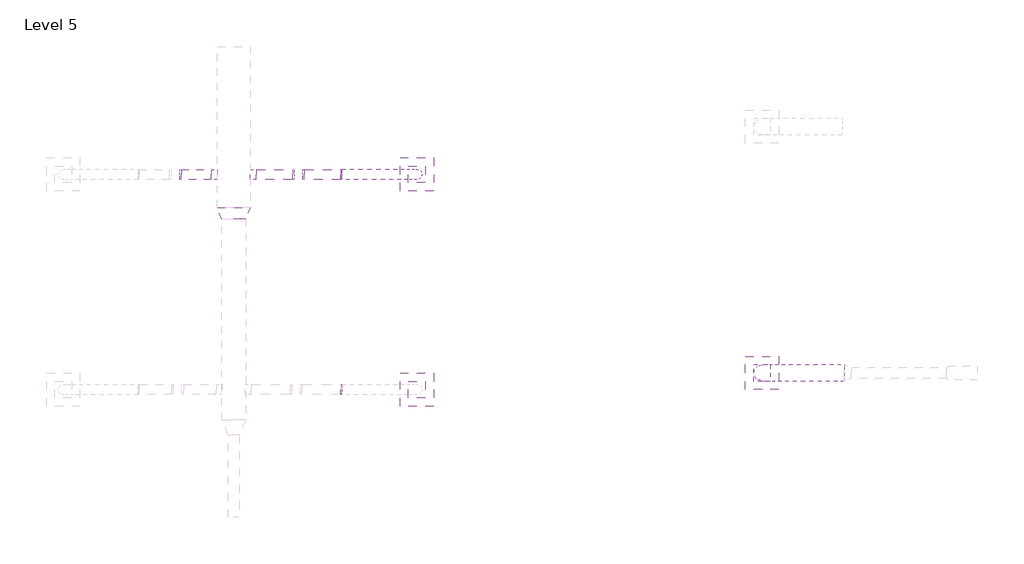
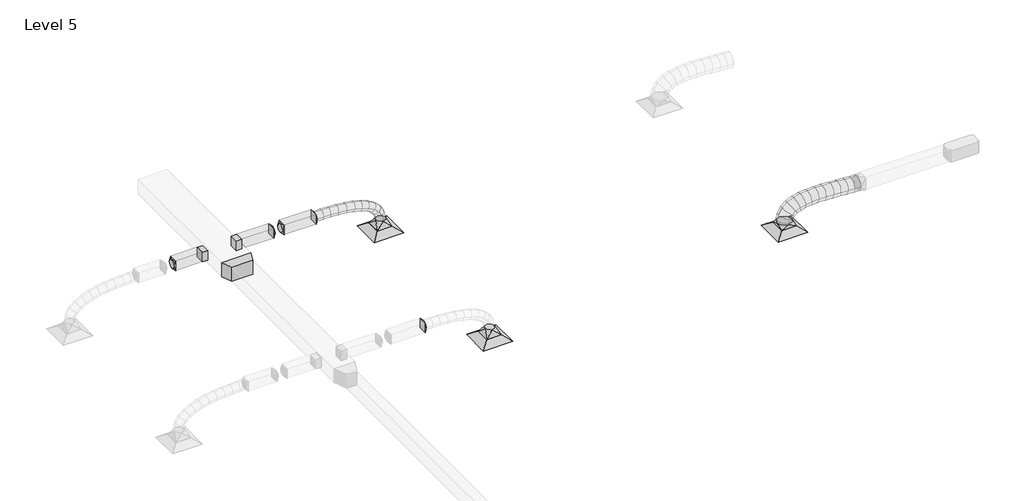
# One storey, part 3 of 7: 11 duct fittings, 5 duct segments, 3 air terminals.
"""IFC4 building model written with IfcOpenShell, lengths in millimetres."""

from ifc_helpers import new_model, si_unit, frame, origin, place, context, project, spatial, polyline, circle_curve, ellipse_curve, outline, extrude, transform, mapped, element, save
from ifc_brep_helpers import plane_surface, cylinder_surface, advanced_brep
from components import extract_grille_600_x_600_face_300_x_300_connection_2ef68f4f, supply_diffuser_24_x_24_face_16_x_16_connection_3cd54949, rectangular_takeoff_standard_32a156ed, rectangular_transition_angle_45_degree_a15e2a90, rectangular_to_round_transition_angle_45_degree_6939472c, rectangular_to_round_transition_angle_45_degree_460bb45a, rectangular_to_round_transition_angle_45_degree_ccfbbdd0, rectangular_to_round_transition_angle_45_degree_641efff0

model = new_model("IFC4")

# Units and contexts
model_context = context("Model", 3, world=origin())
ifc_project = project(units=[si_unit("LENGTHUNIT", "METRE", prefix="MILLI")], contexts=[model_context])

# Site, building, storey
site = spatial("IfcSite", under=ifc_project)
building = spatial("IfcBuilding", under=site)
storey = spatial("IfcBuildingStorey", under=building, Name="Level 5", Elevation=19507.2)

# Air terminals
placement = place(None, origin())
extract_grille_600_x_600_face_300_x_300_connection_shape = extract_grille_600_x_600_face_300_x_300_connection_2ef68f4f(model_context)
element("IfcAirTerminal", 1, ObjectType="Extract Grille : 600 x 600 Face 300 x 300 Connection", at=placement, inside=storey, context=model_context, shape_type="MappedRepresentation", body=[
    mapped(extract_grille_600_x_600_face_300_x_300_connection_shape, transform((-7599.3643438, 7900.8314492, 21507.2), x_axis=(-1.0, 0.0, 0.0), y_axis=(0.0, -1.0, 0.0), z_axis=(0.0, 0.0, 1.0))),
])
element("IfcAirTerminal", 2, ObjectType="Extract Grille : 600 x 600 Face 300 x 300 Connection", at=placement, inside=storey, context=model_context, shape_type="MappedRepresentation", body=[
    mapped(extract_grille_600_x_600_face_300_x_300_connection_shape, transform((-7599.3643438, 4033.0001252, 21507.2), x_axis=(-1.0, 0.0, 0.0), y_axis=(0.0, -1.0, 0.0), z_axis=(0.0, 0.0, 1.0))),
])
supply_diffuser_24_x_24_face_16_x_16_connection_shape = supply_diffuser_24_x_24_face_16_x_16_connection_3cd54949(model_context)
element("IfcAirTerminal", 3, ObjectType="Supply Diffuser : 24 x 24 Face 16 x 16 Connection", at=placement, inside=storey, context=model_context, shape_type="MappedRepresentation", body=[
    mapped(supply_diffuser_24_x_24_face_16_x_16_connection_shape, transform((-1396.0430817, 4332.0573383, 21507.2), x_axis=(-1.0, 0.0, 0.0), y_axis=(0.0, -1.0, 0.0), z_axis=(0.0, 0.0, 1.0))),
])

# Duct fittings
rectangular_takeoff_standard_shape = rectangular_takeoff_standard_32a156ed(model_context)
element("IfcDuctFitting", 4, ObjectType="Rectangular Takeoff : Standard", at=placement, inside=storey, context=model_context, shape_type="MappedRepresentation", body=[
    mapped(rectangular_takeoff_standard_shape, transform((-10588.399049, 7900.8314492, 22250.4), x_axis=(1.0, 0.0, 0.0), y_axis=(0.0, -1.0, 0.0), z_axis=(0.0, 0.0, -1.0))),
])
element("IfcDuctFitting", 5, ObjectType="Rectangular Takeoff : Standard", at=placement, inside=storey, context=model_context, shape_type="MappedRepresentation", body=[
    mapped(rectangular_takeoff_standard_shape, transform((-11188.399049, 7900.8314492, 22250.4), x_axis=(-1.0, 0.0, 0.0), y_axis=(0.0, -1.0, 0.0), z_axis=(0.0, 0.0, 1.0))),
])
rectangular_transition_angle_45_degree_shape = rectangular_transition_angle_45_degree_a15e2a90(model_context)
element("IfcDuctFitting", 6, ObjectType="Rectangular Transition - Angle : 45 Degree", at=placement, inside=storey, context=model_context, shape_type="MappedRepresentation", body=[
    mapped(rectangular_transition_angle_45_degree_shape, transform((-10888.399049, 7097.6456511, 22250.4), x_axis=(0.0, 1.0, 0.0), y_axis=(-1.0, 0.0, 0.0), z_axis=(0.0, 0.0, 1.0))),
])
rectangular_to_round_transition_angle_45_degree_shape = rectangular_to_round_transition_angle_45_degree_6939472c(model_context)
element("IfcDuctFitting", 7, ObjectType="Rectangular to Round Transition - Angle : 45 Degree", at=placement, inside=storey, context=model_context, shape_type="MappedRepresentation", body=[
    mapped(rectangular_to_round_transition_angle_45_degree_shape, transform((-7599.3643438, 7900.8314492, 21607.2), x_axis=(0.0, 0.0, 1.0), y_axis=(-1.0, 0.0, 0.0), z_axis=(0.0, -1.0, 0.0))),
])
element("IfcDuctFitting", 8, ObjectType="Rectangular to Round Transition - Angle : 45 Degree", at=placement, inside=storey, context=model_context, shape_type="MappedRepresentation", body=[
    mapped(rectangular_to_round_transition_angle_45_degree_shape, transform((-7599.3643438, 4033.0001252, 21607.2), x_axis=(0.0, 0.0, 1.0), y_axis=(-1.0, 0.0, 0.0), z_axis=(0.0, -1.0, 0.0))),
])
rectangular_to_round_transition_angle_45_degree_2_shape = rectangular_to_round_transition_angle_45_degree_460bb45a(model_context)
element("IfcDuctFitting", 9, ObjectType="Rectangular to Round Transition - Angle : 45 Degree", at=placement, inside=storey, context=model_context, shape_type="MappedRepresentation", body=[
    mapped(rectangular_to_round_transition_angle_45_degree_2_shape, transform((-8963.51205, 7900.8314492, 22250.4), x_axis=(1.0, 0.0, 0.0), y_axis=(0.0, 1.0, 0.0), z_axis=(0.0, 0.0, 1.0))),
])
element("IfcDuctFitting", 10, ObjectType="Rectangular to Round Transition - Angle : 45 Degree", at=placement, inside=storey, context=model_context, shape_type="MappedRepresentation", body=[
    mapped(rectangular_to_round_transition_angle_45_degree_2_shape, transform((-8963.51205, 4033.0001252, 22250.4), x_axis=(1.0, 0.0, 0.0), y_axis=(0.0, 1.0, 0.0), z_axis=(0.0, 0.0, 1.0))),
])
rectangular_to_round_transition_angle_45_degree_3_shape = rectangular_to_round_transition_angle_45_degree_ccfbbdd0(model_context)
element("IfcDuctFitting", 11, ObjectType="Rectangular to Round Transition - Angle : 45 Degree", at=placement, inside=storey, context=model_context, shape_type="MappedRepresentation", body=[
    mapped(rectangular_to_round_transition_angle_45_degree_3_shape, transform((-11831.778829, 7900.8314492, 22250.4), x_axis=(-1.0, 0.0, 0.0), y_axis=(0.0, -1.0, 0.0), z_axis=(0.0, 0.0, 1.0))),
])
element("IfcDuctFitting", 12, ObjectType="Rectangular to Round Transition - Angle : 45 Degree", at=placement, inside=storey, context=model_context, shape_type="MappedRepresentation", body=[
    mapped(rectangular_to_round_transition_angle_45_degree_3_shape, transform((-9832.0160617, 7900.8314492, 22250.4), x_axis=(1.0, 0.0, 0.0), y_axis=(0.0, 1.0, 0.0), z_axis=(0.0, 0.0, 1.0))),
])
element("IfcDuctFitting", 13, ObjectType="Rectangular to Round Transition - Angle : 45 Degree", at=placement, inside=storey, context=model_context, shape_type="MappedRepresentation", body=[
    mapped(rectangular_to_round_transition_angle_45_degree_3_shape, transform((-9618.2950373, 7900.8314492, 22250.4), x_axis=(-1.0, 0.0, 0.0), y_axis=(0.0, -1.0, 0.0), z_axis=(0.0, 0.0, 1.0))),
])
rectangular_to_round_transition_angle_45_degree_4_shape = rectangular_to_round_transition_angle_45_degree_641efff0(model_context)
element("IfcDuctFitting", 14, ObjectType="Rectangular to Round Transition - Angle : 45 Degree", at=placement, inside=storey, context=model_context, shape_type="MappedRepresentation", body=[
    mapped(rectangular_to_round_transition_angle_45_degree_4_shape, transform((-1396.0430817, 4332.0573383, 21608.8), x_axis=(0.0, 0.0, 1.0), y_axis=(-1.0, 0.0, 0.0), z_axis=(0.0, -1.0, 0.0))),
])

# Duct segments
element("IfcDuctSegment", 15, ObjectType="Flex - Round", at=placement, inside=storey, context=model_context, shape_type="AdvancedBrep", body=[
    advanced_brep(
    [(-7504.5376771, 7900.8314492, 21740.4002096), (-7599.3643438, 7806.0047825, 21740.4002096), (-7694.1910105, 7900.8314492, 21740.4002096), (-7599.3643438, 7995.6581158, 21740.4002096), (-7504.5376771, 7900.8314492, 21765.6702615), (-7599.3643438, 7806.0047825, 21756.3980144), (-7694.1910105, 7900.8314492, 21747.1257674), (-7599.3643438, 7995.6581158, 21756.3980144), (-7529.9698172, 7900.8314492, 21894.4732915), (-7619.9286293, 7806.0047825, 21860.5474205), (-7709.8874414, 7900.8314492, 21826.6215495), (-7619.9286293, 7995.6581158, 21860.5474205), (-7603.270408, 7900.8314492, 22020.6379256), (-7677.8512937, 7806.0047825, 21960.2436396), (-7752.4321794, 7900.8314492, 21899.8493536), (-7677.8512937, 7995.6581158, 21960.2436396), (-7711.8530944, 7900.8314492, 22118.9440371), (-7767.4770488, 7806.0047825, 22041.3869579), (-7823.1010033, 7900.8314492, 21963.8298786), (-7767.4770488, 7995.6581158, 22041.3869579), (-7843.5394232, 7900.8314492, 22192.3597348), (-7883.1506065, 7806.0047825, 22105.8754664), (-7922.7617899, 7900.8314492, 22019.391198), (-7883.1506065, 7995.6581158, 22105.8754664), (-7991.5945689, 7900.8314492, 22246.4734993), (-8019.2166786, 7806.0047825, 22155.6072562), (-8046.8387884, 7900.8314492, 22064.7410131), (-8019.2166786, 7995.6581158, 22155.6072562), (-8151.1437669, 7900.8314492, 22285.4851358), (-8170.019977, 7806.0047825, 22192.4804184), (-8188.8961871, 7900.8314492, 22099.475701), (-8170.019977, 7995.6581158, 22192.4804184), (-8317.4432998, 7900.8314492, 22312.4373273), (-8329.9052134, 7806.0047825, 22218.3930438), (-8342.3671271, 7900.8314492, 22124.3487604), (-8329.9052134, 7995.6581158, 22218.3930438), (-8485.5016071, 7900.8314492, 22329.777233), (-8493.2170998, 7806.0047825, 22235.2432237), (-8500.9325925, 7900.8314492, 22140.7092145), (-8493.2170998, 7995.6581158, 22235.2432237), (-8650.086298, 7900.8314492, 22339.6735976), (-8654.3003479, 7806.0047825, 22244.929049), (-8658.5143978, 7900.8314492, 22150.1845004), (-8654.3003479, 7995.6581158, 22244.929049), (-8805.7753149, 7900.8314492, 22344.1649832), (-8807.4996696, 7806.0047825, 22249.3486108), (-8809.2240244, 7900.8314492, 22154.5322383), (-8807.4996696, 7995.6581158, 22249.3486108), (-8946.4459229, 7900.8314492, 22345.2239797), (-8947.1597768, 7806.0047825, 22250.4), (-8947.8736307, 7900.8314492, 22155.5760203), (-8947.1597768, 7995.6581158, 22250.4)],
    [
        (0, 1, circle_curve(frame((-7599.3643438, 7900.8314492, 21740.4002096), z_axis=(0.0, 0.0, -1.0), x_axis=(1.0, 0.0, 0.0)), 94.8266667)),
        (1, 2, circle_curve(frame((-7599.3643438, 7900.8314492, 21740.4002096), z_axis=(0.0, 0.0, -1.0), x_axis=(1.0, 0.0, 0.0)), 94.8266667)),
        (2, 3, circle_curve(frame((-7599.3643438, 7900.8314492, 21740.4002096), z_axis=(0.0, 0.0, -1.0), x_axis=(1.0, 0.0, 0.0)), 94.8266667)),
        (3, 0, circle_curve(frame((-7599.3643438, 7900.8314492, 21740.4002096), z_axis=(0.0, 0.0, -1.0), x_axis=(1.0, 0.0, 0.0)), 94.8266667)),
        (0, 4),
        (4, 5, ellipse_curve(frame((-7599.3643438, 7900.8314492, 21756.3980144), z_axis=(0.09731688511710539, 0.0, -0.9952534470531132), x_axis=(-0.9952534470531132, 0.0, -0.09731688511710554)), 95.2789131, 94.8266667)),
        (5, 1),
        (5, 6, ellipse_curve(frame((-7599.3643438, 7900.8314492, 21756.3980144), z_axis=(0.09731688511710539, 0.0, -0.9952534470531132), x_axis=(-0.9952534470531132, 0.0, -0.09731688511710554)), 95.2789131, 94.8266667)),
        (6, 2),
        (6, 7, ellipse_curve(frame((-7599.3643438, 7900.8314492, 21756.3980144), z_axis=(0.09731688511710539, 0.0, -0.9952534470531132), x_axis=(-0.9952534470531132, 0.0, -0.09731688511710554)), 95.2789131, 94.8266667)),
        (7, 3),
        (7, 4, ellipse_curve(frame((-7599.3643438, 7900.8314492, 21756.3980144), z_axis=(0.09731688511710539, 0.0, -0.9952534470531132), x_axis=(-0.9952534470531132, 0.0, -0.09731688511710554)), 95.2789131, 94.8266667)),
        (4, 8),
        (8, 9, ellipse_curve(frame((-7619.9286293, 7900.8314492, 21860.5474205), z_axis=(0.3528674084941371, 0.0, -0.9356733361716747), x_axis=(-0.9356733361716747, 0.0, -0.3528674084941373)), 96.143396, 94.8266667)),
        (9, 5),
        (9, 10, ellipse_curve(frame((-7619.9286293, 7900.8314492, 21860.5474205), z_axis=(0.3528674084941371, 0.0, -0.9356733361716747), x_axis=(-0.9356733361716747, 0.0, -0.3528674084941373)), 96.143396, 94.8266667)),
        (10, 6),
        (10, 11, ellipse_curve(frame((-7619.9286293, 7900.8314492, 21860.5474205), z_axis=(0.3528674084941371, 0.0, -0.9356733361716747), x_axis=(-0.9356733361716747, 0.0, -0.3528674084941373)), 96.143396, 94.8266667)),
        (11, 7),
        (11, 8, ellipse_curve(frame((-7619.9286293, 7900.8314492, 21860.5474205), z_axis=(0.3528674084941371, 0.0, -0.9356733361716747), x_axis=(-0.9356733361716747, 0.0, -0.3528674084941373)), 96.143396, 94.8266667)),
        (8, 12),
        (12, 13, ellipse_curve(frame((-7677.8512937, 7900.8314492, 21960.2436396), z_axis=(0.6293196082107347, 0.0, -0.777146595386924), x_axis=(-0.7771465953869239, 0.0, -0.6293196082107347)), 95.9675898, 94.8266667)),
        (13, 9),
        (13, 14, ellipse_curve(frame((-7677.8512937, 7900.8314492, 21960.2436396), z_axis=(0.6293196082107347, 0.0, -0.777146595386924), x_axis=(-0.7771465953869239, 0.0, -0.6293196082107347)), 95.9675898, 94.8266667)),
        (14, 10),
        (14, 15, ellipse_curve(frame((-7677.8512937, 7900.8314492, 21960.2436396), z_axis=(0.6293196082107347, 0.0, -0.777146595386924), x_axis=(-0.7771465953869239, 0.0, -0.6293196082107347)), 95.9675898, 94.8266667)),
        (15, 11),
        (15, 12, ellipse_curve(frame((-7677.8512937, 7900.8314492, 21960.2436396), z_axis=(0.6293196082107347, 0.0, -0.777146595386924), x_axis=(-0.7771465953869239, 0.0, -0.6293196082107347)), 95.9675898, 94.8266667)),
        (12, 16),
        (16, 17, ellipse_curve(frame((-7767.4770488, 7900.8314492, 22041.3869579), z_axis=(0.8126117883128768, 0.0, -0.5828053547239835), x_axis=(-0.5828053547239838, 0.0, -0.8126117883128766)), 95.4417354, 94.8266667)),
        (17, 13),
        (17, 18, ellipse_curve(frame((-7767.4770488, 7900.8314492, 22041.3869579), z_axis=(0.8126117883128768, 0.0, -0.5828053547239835), x_axis=(-0.5828053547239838, 0.0, -0.8126117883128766)), 95.4417354, 94.8266667)),
        (18, 14),
        (18, 19, ellipse_curve(frame((-7767.4770488, 7900.8314492, 22041.3869579), z_axis=(0.8126117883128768, 0.0, -0.5828053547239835), x_axis=(-0.5828053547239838, 0.0, -0.8126117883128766)), 95.4417354, 94.8266667)),
        (19, 15),
        (19, 16, ellipse_curve(frame((-7767.4770488, 7900.8314492, 22041.3869579), z_axis=(0.8126117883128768, 0.0, -0.5828053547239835), x_axis=(-0.5828053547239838, 0.0, -0.8126117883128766)), 95.4417354, 94.8266667)),
        (16, 20),
        (20, 21, ellipse_curve(frame((-7883.1506065, 7900.8314492, 22105.8754664), z_axis=(0.9091740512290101, 0.0, -0.4164163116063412), x_axis=(-0.41641631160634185, 0.0, -0.9091740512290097)), 95.1239955, 94.8266667)),
        (21, 17),
        (21, 22, ellipse_curve(frame((-7883.1506065, 7900.8314492, 22105.8754664), z_axis=(0.9091740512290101, 0.0, -0.4164163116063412), x_axis=(-0.41641631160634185, 0.0, -0.9091740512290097)), 95.1239955, 94.8266667)),
        (22, 18),
        (22, 23, ellipse_curve(frame((-7883.1506065, 7900.8314492, 22105.8754664), z_axis=(0.9091740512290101, 0.0, -0.4164163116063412), x_axis=(-0.41641631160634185, 0.0, -0.9091740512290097)), 95.1239955, 94.8266667)),
        (23, 19),
        (23, 20, ellipse_curve(frame((-7883.1506065, 7900.8314492, 22105.8754664), z_axis=(0.9091740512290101, 0.0, -0.4164163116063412), x_axis=(-0.41641631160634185, 0.0, -0.9091740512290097)), 95.1239955, 94.8266667)),
        (20, 24),
        (24, 25, ellipse_curve(frame((-8019.2166786, 7900.8314492, 22155.6072562), z_axis=(0.9567701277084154, 0.0, -0.29084518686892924), x_axis=(-0.2908451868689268, 0.0, -0.9567701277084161)), 94.9718647, 94.8266667)),
        (25, 21),
        (25, 26, ellipse_curve(frame((-8019.2166786, 7900.8314492, 22155.6072562), z_axis=(0.9567701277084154, 0.0, -0.29084518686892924), x_axis=(-0.2908451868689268, 0.0, -0.9567701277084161)), 94.9718647, 94.8266667)),
        (26, 22),
        (26, 27, ellipse_curve(frame((-8019.2166786, 7900.8314492, 22155.6072562), z_axis=(0.9567701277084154, 0.0, -0.29084518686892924), x_axis=(-0.2908451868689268, 0.0, -0.9567701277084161)), 94.9718647, 94.8266667)),
        (27, 23),
        (27, 24, ellipse_curve(frame((-8019.2166786, 7900.8314492, 22155.6072562), z_axis=(0.9567701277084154, 0.0, -0.29084518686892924), x_axis=(-0.2908451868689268, 0.0, -0.9567701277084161)), 94.9718647, 94.8266667)),
        (24, 28),
        (28, 29, ellipse_curve(frame((-8170.019977, 7900.8314492, 22192.4804184), z_axis=(0.9800189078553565, 0.0, -0.1989043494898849), x_axis=(-0.19890434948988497, 0.0, -0.9800189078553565)), 94.9009419, 94.8266667)),
        (29, 25),
        (29, 30, ellipse_curve(frame((-8170.019977, 7900.8314492, 22192.4804184), z_axis=(0.9800189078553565, 0.0, -0.1989043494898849), x_axis=(-0.19890434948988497, 0.0, -0.9800189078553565)), 94.9009419, 94.8266667)),
        (30, 26),
        (30, 31, ellipse_curve(frame((-8170.019977, 7900.8314492, 22192.4804184), z_axis=(0.9800189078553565, 0.0, -0.1989043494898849), x_axis=(-0.19890434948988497, 0.0, -0.9800189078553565)), 94.9009419, 94.8266667)),
        (31, 27),
        (31, 28, ellipse_curve(frame((-8170.019977, 7900.8314492, 22192.4804184), z_axis=(0.9800189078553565, 0.0, -0.1989043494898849), x_axis=(-0.19890434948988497, 0.0, -0.9800189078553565)), 94.9009419, 94.8266667)),
        (28, 32),
        (32, 33, ellipse_curve(frame((-8329.9052134, 7900.8314492, 22218.3930438), z_axis=(0.9913343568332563, 0.0, -0.13136282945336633), x_axis=(-0.13136282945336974, 0.0, -0.9913343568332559)), 94.8663615, 94.8266667)),
        (33, 29),
        (33, 34, ellipse_curve(frame((-8329.9052134, 7900.8314492, 22218.3930438), z_axis=(0.9913343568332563, 0.0, -0.13136282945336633), x_axis=(-0.13136282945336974, 0.0, -0.9913343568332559)), 94.8663615, 94.8266667)),
        (34, 30),
        (34, 35, ellipse_curve(frame((-8329.9052134, 7900.8314492, 22218.3930438), z_axis=(0.9913343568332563, 0.0, -0.13136282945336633), x_axis=(-0.13136282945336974, 0.0, -0.9913343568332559)), 94.8663615, 94.8266667)),
        (35, 31),
        (35, 32, ellipse_curve(frame((-8329.9052134, 7900.8314492, 22218.3930438), z_axis=(0.9913343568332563, 0.0, -0.13136282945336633), x_axis=(-0.13136282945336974, 0.0, -0.9913343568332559)), 94.8663615, 94.8266667)),
        (32, 36),
        (36, 37, ellipse_curve(frame((-8493.2170998, 7900.8314492, 22235.2432237), z_axis=(0.9966859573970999, 0.0, -0.08134557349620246), x_axis=(-0.08134557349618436, 0.0, -0.9966859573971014)), 94.8483407, 94.8266667)),
        (37, 33),
        (37, 38, ellipse_curve(frame((-8493.2170998, 7900.8314492, 22235.2432237), z_axis=(0.9966859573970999, 0.0, -0.08134557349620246), x_axis=(-0.08134557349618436, 0.0, -0.9966859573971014)), 94.8483407, 94.8266667)),
        (38, 34),
        (38, 39, ellipse_curve(frame((-8493.2170998, 7900.8314492, 22235.2432237), z_axis=(0.9966859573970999, 0.0, -0.08134557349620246), x_axis=(-0.08134557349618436, 0.0, -0.9966859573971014)), 94.8483407, 94.8266667)),
        (39, 35),
        (39, 36, ellipse_curve(frame((-8493.2170998, 7900.8314492, 22235.2432237), z_axis=(0.9966859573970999, 0.0, -0.08134557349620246), x_axis=(-0.08134557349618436, 0.0, -0.9966859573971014)), 94.8483407, 94.8266667)),
        (36, 40),
        (40, 41, ellipse_curve(frame((-8654.3003479, 7900.8314492, 22244.929049), z_axis=(0.9990123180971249, 0.0, -0.04443408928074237), x_axis=(-0.0444340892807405, 0.0, -0.999012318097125)), 94.8382186, 94.8266667)),
        (41, 37),
        (41, 42, ellipse_curve(frame((-8654.3003479, 7900.8314492, 22244.929049), z_axis=(0.9990123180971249, 0.0, -0.04443408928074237), x_axis=(-0.0444340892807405, 0.0, -0.999012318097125)), 94.8382186, 94.8266667)),
        (42, 38),
        (42, 43, ellipse_curve(frame((-8654.3003479, 7900.8314492, 22244.929049), z_axis=(0.9990123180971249, 0.0, -0.04443408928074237), x_axis=(-0.0444340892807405, 0.0, -0.999012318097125)), 94.8382186, 94.8266667)),
        (43, 39),
        (43, 40, ellipse_curve(frame((-8654.3003479, 7900.8314492, 22244.929049), z_axis=(0.9990123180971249, 0.0, -0.04443408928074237), x_axis=(-0.0444340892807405, 0.0, -0.999012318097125)), 94.8382186, 94.8266667)),
        (40, 44),
        (44, 45, ellipse_curve(frame((-8807.4996696, 7900.8314492, 22249.3486108), z_axis=(0.9998346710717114, 0.0, -0.018183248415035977), x_axis=(-0.018183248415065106, 0.0, -0.9998346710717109)), 94.8320509, 94.8266667)),
        (45, 41),
        (45, 46, ellipse_curve(frame((-8807.4996696, 7900.8314492, 22249.3486108), z_axis=(0.9998346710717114, 0.0, -0.018183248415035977), x_axis=(-0.018183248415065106, 0.0, -0.9998346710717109)), 94.8320509, 94.8266667)),
        (46, 42),
        (46, 47, ellipse_curve(frame((-8807.4996696, 7900.8314492, 22249.3486108), z_axis=(0.9998346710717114, 0.0, -0.018183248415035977), x_axis=(-0.018183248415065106, 0.0, -0.9998346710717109)), 94.8320509, 94.8266667)),
        (47, 43),
        (47, 44, ellipse_curve(frame((-8807.4996696, 7900.8314492, 22249.3486108), z_axis=(0.9998346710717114, 0.0, -0.018183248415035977), x_axis=(-0.018183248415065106, 0.0, -0.9998346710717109)), 94.8320509, 94.8266667)),
        (44, 48),
        (48, 49, circle_curve(frame((-8947.1597768, 7900.8314492, 22250.4), z_axis=(0.9999716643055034, 0.0, -0.007527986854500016), x_axis=(0.007527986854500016, 0.0, 0.9999716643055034)), 94.8266667)),
        (49, 45),
        (49, 50, circle_curve(frame((-8947.1597768, 7900.8314492, 22250.4), z_axis=(0.9999716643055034, 0.0, -0.007527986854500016), x_axis=(0.007527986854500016, 0.0, 0.9999716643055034)), 94.8266667)),
        (50, 46),
        (50, 51, circle_curve(frame((-8947.1597768, 7900.8314492, 22250.4), z_axis=(0.9999716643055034, 0.0, -0.007527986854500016), x_axis=(0.007527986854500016, 0.0, 0.9999716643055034)), 94.8266667)),
        (51, 47),
        (51, 48, circle_curve(frame((-8947.1597768, 7900.8314492, 22250.4), z_axis=(0.9999716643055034, 0.0, -0.007527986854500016), x_axis=(0.007527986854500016, 0.0, 0.9999716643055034)), 94.8266667)),
    ],
    [
        plane_surface(frame((-7599.3643438, 7806.0047825, 21740.4002096), z_axis=(0.0, 0.0, -1.0), x_axis=(1.0, 0.0, 0.0))),
        cylinder_surface(frame((-7599.3643438, 7900.8314492, 21740.4002096), z_axis=(0.0, 0.0, -1.0), x_axis=(1.0, 0.0, 0.0)), 94.8266667),
        cylinder_surface(frame((-7599.3643438, 7900.8314492, 21756.3980144), z_axis=(0.1937099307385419, 0.0, -0.9810588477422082), x_axis=(0.9810588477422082, 0.0, 0.1937099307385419)), 94.8266667),
        cylinder_surface(frame((-7619.9286293, 7900.8314492, 21860.5474205), z_axis=(0.5023595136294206, 0.0, -0.8646588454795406), x_axis=(0.8646588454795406, 0.0, 0.5023595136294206)), 94.8266667),
        cylinder_surface(frame((-7677.8512937, 7900.8314492, 21960.2436396), z_axis=(0.7413162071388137, 0.0, -0.6711559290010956), x_axis=(0.6711559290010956, 0.0, 0.7413162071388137)), 94.8266667),
        cylinder_surface(frame((-7767.4770488, 7900.8314492, 22041.3869579), z_axis=(0.8734337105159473, 0.0, -0.486943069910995), x_axis=(0.486943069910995, 0.0, 0.8734337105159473)), 94.8266667),
        cylinder_surface(frame((-7883.1506065, 7900.8314492, 22105.8754664), z_axis=(0.9392307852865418, 0.0, -0.3432863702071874), x_axis=(0.3432863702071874, 0.0, 0.9392307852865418)), 94.8266667),
        cylinder_surface(frame((-8019.2166786, 7900.8314492, 22155.6072562), z_axis=(0.9713839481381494, 0.0, -0.2375146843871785), x_axis=(0.2375146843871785, 0.0, 0.9713839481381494)), 94.8266667),
        cylinder_surface(frame((-8170.019977, 7900.8314492, 22192.4804184), z_axis=(0.9871198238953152, 0.0, -0.1599826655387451), x_axis=(0.1599826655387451, 0.0, 0.9871198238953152)), 94.8266667),
        cylinder_surface(frame((-8329.9052134, 7900.8314492, 22218.3930438), z_axis=(0.9947192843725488, 0.0, -0.1026330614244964), x_axis=(0.1026330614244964, 0.0, 0.9947192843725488)), 94.8266667),
        cylinder_surface(frame((-8493.2170998, 7900.8314492, 22235.2432237), z_axis=(0.9981971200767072, 0.0, -0.060020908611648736), x_axis=(0.060020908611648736, 0.0, 0.9981971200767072)), 94.8266667),
        cylinder_surface(frame((-8654.3003479, 7900.8314492, 22244.929049), z_axis=(0.9995841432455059, 0.0, -0.02883644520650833), x_axis=(0.02883644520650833, 0.0, 0.9995841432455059)), 94.8266667),
        cylinder_surface(frame((-8807.4996696, 7900.8314492, 22249.3486108), z_axis=(0.9999716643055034, 0.0, -0.007527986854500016), x_axis=(0.007527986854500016, 0.0, 0.9999716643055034)), 94.8266667),
        plane_surface(frame((-8947.1597768, 7806.0047825, 22250.4), z_axis=(-0.9999716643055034, 0.0, 0.007527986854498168), x_axis=(0.007527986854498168, 0.0, 0.9999716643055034))),
    ],
    [
        (0, [[1, 2, 3, 4]]),
        (1, [[-1, 5, 6, 7]]),
        (1, [[-2, -7, 8, 9]]),
        (1, [[-3, -9, 10, 11]]),
        (1, [[-4, -11, 12, -5]]),
        (2, [[-6, 13, 14, 15]]),
        (2, [[-8, -15, 16, 17]]),
        (2, [[-10, -17, 18, 19]]),
        (2, [[-12, -19, 20, -13]]),
        (3, [[-14, 21, 22, 23]]),
        (3, [[-16, -23, 24, 25]]),
        (3, [[-18, -25, 26, 27]]),
        (3, [[-20, -27, 28, -21]]),
        (4, [[-22, 29, 30, 31]]),
        (4, [[-24, -31, 32, 33]]),
        (4, [[-26, -33, 34, 35]]),
        (4, [[-28, -35, 36, -29]]),
        (5, [[-30, 37, 38, 39]]),
        (5, [[-32, -39, 40, 41]]),
        (5, [[-34, -41, 42, 43]]),
        (5, [[-36, -43, 44, -37]]),
        (6, [[-38, 45, 46, 47]]),
        (6, [[-40, -47, 48, 49]]),
        (6, [[-42, -49, 50, 51]]),
        (6, [[-44, -51, 52, -45]]),
        (7, [[-46, 53, 54, 55]]),
        (7, [[-48, -55, 56, 57]]),
        (7, [[-50, -57, 58, 59]]),
        (7, [[-52, -59, 60, -53]]),
        (8, [[-54, 61, 62, 63]]),
        (8, [[-56, -63, 64, 65]]),
        (8, [[-58, -65, 66, 67]]),
        (8, [[-60, -67, 68, -61]]),
        (9, [[-62, 69, 70, 71]]),
        (9, [[-64, -71, 72, 73]]),
        (9, [[-66, -73, 74, 75]]),
        (9, [[-68, -75, 76, -69]]),
        (10, [[-70, 77, 78, 79]]),
        (10, [[-72, -79, 80, 81]]),
        (10, [[-74, -81, 82, 83]]),
        (10, [[-76, -83, 84, -77]]),
        (11, [[-78, 85, 86, 87]]),
        (11, [[-80, -87, 88, 89]]),
        (11, [[-82, -89, 90, 91]]),
        (11, [[-84, -91, 92, -85]]),
        (12, [[-86, 93, 94, 95]]),
        (12, [[-88, -95, 96, 97]]),
        (12, [[-90, -97, 98, 99]]),
        (12, [[-92, -99, 100, -93]]),
        (13, [[-100, -98, -96, -94]]),
    ],
),
])
element("IfcDuctSegment", 16, ObjectType="Flex - Round", at=placement, inside=storey, context=model_context, shape_type="AdvancedBrep", body=[
    advanced_brep(
    [(-1246.0430817, 4332.0573383, 21683.8), (-1396.0430817, 4182.0573383, 21683.8), (-1546.0430817, 4332.0573383, 21683.8), (-1396.0430817, 4482.0573383, 21683.8), (-1246.0430817, 4332.0573383, 21692.1286196), (-1396.0430817, 4182.0573383, 21707.545788), (-1546.0430817, 4332.0573383, 21722.9629563), (-1396.0430817, 4482.0573383, 21707.545788), (-1237.4640406, 4332.0573383, 21733.4222557), (-1379.3669536, 4182.0573383, 21787.8132622), (-1521.2698667, 4332.0573383, 21842.2042687), (-1379.3669536, 4482.0573383, 21787.8132622), (-1215.8036456, 4332.0573383, 21770.6284537), (-1331.9783222, 4182.0573383, 21869.2130155), (-1448.1529988, 4332.0573383, 21967.7975773), (-1331.9783222, 4482.0573383, 21869.2130155), (-1177.8491107, 4332.0573383, 21801.9955093), (-1257.8368168, 4182.0573383, 21930.486345), (-1337.8245229, 4332.0573383, 22058.9771807), (-1257.8368168, 4482.0573383, 21930.486345), (-1111.795044, 4332.0573383, 21831.7289384), (-1160.9020668, 4182.0573383, 21974.1203354), (-1210.0090895, 4332.0573383, 22116.5117324), (-1160.9020668, 4482.0573383, 21974.1203354), (-1018.1035598, 4332.0573383, 21854.7792436), (-1045.1337014, 4182.0573383, 22002.6020717), (-1072.1638431, 4332.0573383, 22150.4248999), (-1045.1337014, 4482.0573383, 22002.6020717), (-902.4725222, 4332.0573383, 21868.7784256), (-914.4913502, 4182.0573383, 22018.4186388), (-926.5101781, 4332.0573383, 22168.058852), (-914.4913502, 4482.0573383, 22018.4186388), (-770.9846556, 4332.0573383, 21874.0158465), (-772.9346423, 4182.0573383, 22024.0571215), (-774.8846291, 4332.0573383, 22174.0983965), (-772.9346423, 4482.0573383, 22024.0571215), (-629.0490177, 4332.0573383, 21872.0542112), (-624.4232073, 4182.0573383, 22022.0046048), (-619.7973968, 4332.0573383, 22171.9549983), (-624.4232073, 4482.0573383, 22022.0046048), (-481.4632233, 4332.0573383, 21864.9855643), (-472.9166743, 4182.0573383, 22014.7481734), (-464.3701253, 4332.0573383, 22164.5107825), (-472.9166743, 4482.0573383, 22014.7481734), (-332.5746919, 4332.0573383, 21855.1218441), (-322.3746728, 4182.0573383, 22004.7749124), (-312.1746537, 4332.0573383, 22154.4279807), (-322.3746728, 4482.0573383, 22004.7749124), (-186.3502828, 4332.0573383, 21844.8763378), (-176.7568321, 4182.0573383, 21994.5719065), (-167.1633814, 4332.0573383, 22144.2674753), (-176.7568321, 4482.0573383, 21994.5719065), (-46.3750793, 4332.0573383, 21836.7423275), (-40.0227815, 4182.0573383, 21986.6262408), (-33.6704837, 4332.0573383, 22136.5101541), (-40.0227815, 4482.0573383, 21986.6262408), (77.9931031, 4332.0573383, 21833.425), (79.9932555, 4182.0573383, 21983.425), (81.993408, 4332.0573383, 22133.425), (79.9932555, 4482.0573383, 21983.425), (83.8678495, 4332.0573383, 21833.425), (83.8678495, 4482.0573383, 21983.425), (83.8678495, 4332.0573383, 22133.425), (83.8678495, 4182.0573383, 21983.425)],
    [
        (0, 1, circle_curve(frame((-1396.0430817, 4332.0573383, 21683.8), z_axis=(0.0, 0.0, -1.0), x_axis=(1.0, 0.0, 0.0)), 150.0)),
        (1, 2, circle_curve(frame((-1396.0430817, 4332.0573383, 21683.8), z_axis=(0.0, 0.0, -1.0), x_axis=(1.0, 0.0, 0.0)), 150.0)),
        (2, 3, circle_curve(frame((-1396.0430817, 4332.0573383, 21683.8), z_axis=(0.0, 0.0, -1.0), x_axis=(1.0, 0.0, 0.0)), 150.0)),
        (3, 0, circle_curve(frame((-1396.0430817, 4332.0573383, 21683.8), z_axis=(0.0, 0.0, -1.0), x_axis=(1.0, 0.0, 0.0)), 150.0)),
        (0, 4),
        (4, 5, ellipse_curve(frame((-1396.0430817, 4332.0573383, 21707.545788), z_axis=(-0.10224249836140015, 0.0, -0.9947595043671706), x_axis=(0.9947595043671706, 0.0, -0.10224249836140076)), 150.7902155, 150.0)),
        (5, 1),
        (5, 6, ellipse_curve(frame((-1396.0430817, 4332.0573383, 21707.545788), z_axis=(-0.10224249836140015, 0.0, -0.9947595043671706), x_axis=(0.9947595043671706, 0.0, -0.10224249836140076)), 150.7902155, 150.0)),
        (6, 2),
        (6, 7, ellipse_curve(frame((-1396.0430817, 4332.0573383, 21707.545788), z_axis=(-0.10224249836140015, 0.0, -0.9947595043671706), x_axis=(0.9947595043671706, 0.0, -0.10224249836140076)), 150.7902155, 150.0)),
        (7, 3),
        (7, 4, ellipse_curve(frame((-1396.0430817, 4332.0573383, 21707.545788), z_axis=(-0.10224249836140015, 0.0, -0.9947595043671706), x_axis=(0.9947595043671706, 0.0, -0.10224249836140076)), 150.7902155, 150.0)),
        (4, 8),
        (8, 9, ellipse_curve(frame((-1379.3669536, 4332.0573383, 21787.8132622), z_axis=(-0.3579066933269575, 0.0, -0.933757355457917), x_axis=(0.9337573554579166, 0.0, -0.35790669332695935)), 151.9697941, 150.0)),
        (9, 5),
        (9, 10, ellipse_curve(frame((-1379.3669536, 4332.0573383, 21787.8132622), z_axis=(-0.3579066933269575, 0.0, -0.933757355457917), x_axis=(0.9337573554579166, 0.0, -0.35790669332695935)), 151.9697941, 150.0)),
        (10, 6),
        (10, 11, ellipse_curve(frame((-1379.3669536, 4332.0573383, 21787.8132622), z_axis=(-0.3579066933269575, 0.0, -0.933757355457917), x_axis=(0.9337573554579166, 0.0, -0.35790669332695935)), 151.9697941, 150.0)),
        (11, 7),
        (11, 8, ellipse_curve(frame((-1379.3669536, 4332.0573383, 21787.8132622), z_axis=(-0.3579066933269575, 0.0, -0.933757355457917), x_axis=(0.9337573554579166, 0.0, -0.35790669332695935)), 151.9697941, 150.0)),
        (8, 12),
        (12, 13, ellipse_curve(frame((-1331.9783222, 4332.0573383, 21869.2130155), z_axis=(-0.6470236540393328, 0.0, -0.7624699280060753), x_axis=(0.7624699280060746, 0.0, -0.6470236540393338)), 152.3662407, 150.0)),
        (13, 9),
        (13, 14, ellipse_curve(frame((-1331.9783222, 4332.0573383, 21869.2130155), z_axis=(-0.6470236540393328, 0.0, -0.7624699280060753), x_axis=(0.7624699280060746, 0.0, -0.6470236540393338)), 152.3662407, 150.0)),
        (14, 10),
        (14, 15, ellipse_curve(frame((-1331.9783222, 4332.0573383, 21869.2130155), z_axis=(-0.6470236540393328, 0.0, -0.7624699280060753), x_axis=(0.7624699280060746, 0.0, -0.6470236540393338)), 152.3662407, 150.0)),
        (15, 11),
        (15, 12, ellipse_curve(frame((-1331.9783222, 4332.0573383, 21869.2130155), z_axis=(-0.6470236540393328, 0.0, -0.7624699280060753), x_axis=(0.7624699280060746, 0.0, -0.6470236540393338)), 152.3662407, 150.0)),
        (12, 16),
        (16, 17, ellipse_curve(frame((-1257.8368168, 4332.0573383, 21930.486345), z_axis=(-0.8489444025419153, 0.0, -0.5284821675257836), x_axis=(0.5284821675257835, 0.0, -0.8489444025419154)), 151.353652, 150.0)),
        (17, 13),
        (17, 18, ellipse_curve(frame((-1257.8368168, 4332.0573383, 21930.486345), z_axis=(-0.8489444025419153, 0.0, -0.5284821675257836), x_axis=(0.5284821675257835, 0.0, -0.8489444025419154)), 151.353652, 150.0)),
        (18, 14),
        (18, 19, ellipse_curve(frame((-1257.8368168, 4332.0573383, 21930.486345), z_axis=(-0.8489444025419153, 0.0, -0.5284821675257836), x_axis=(0.5284821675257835, 0.0, -0.8489444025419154)), 151.353652, 150.0)),
        (19, 15),
        (19, 16, ellipse_curve(frame((-1257.8368168, 4332.0573383, 21930.486345), z_axis=(-0.8489444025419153, 0.0, -0.5284821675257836), x_axis=(0.5284821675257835, 0.0, -0.8489444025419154)), 151.353652, 150.0)),
        (16, 20),
        (20, 21, ellipse_curve(frame((-1160.9020668, 4332.0573383, 21974.1203354), z_axis=(-0.945359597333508, 0.0, -0.3260294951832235), x_axis=(0.32602949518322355, 0.0, -0.945359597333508)), 150.6214116, 150.0)),
        (21, 17),
        (21, 22, ellipse_curve(frame((-1160.9020668, 4332.0573383, 21974.1203354), z_axis=(-0.945359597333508, 0.0, -0.3260294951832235), x_axis=(0.32602949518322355, 0.0, -0.945359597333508)), 150.6214116, 150.0)),
        (22, 18),
        (22, 23, ellipse_curve(frame((-1160.9020668, 4332.0573383, 21974.1203354), z_axis=(-0.945359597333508, 0.0, -0.3260294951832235), x_axis=(0.32602949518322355, 0.0, -0.945359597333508)), 150.6214116, 150.0)),
        (23, 19),
        (23, 20, ellipse_curve(frame((-1160.9020668, 4332.0573383, 21974.1203354), z_axis=(-0.945359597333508, 0.0, -0.3260294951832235), x_axis=(0.32602949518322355, 0.0, -0.945359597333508)), 150.6214116, 150.0)),
        (20, 24),
        (24, 25, ellipse_curve(frame((-1045.1337014, 4332.0573383, 22002.6020717), z_axis=(-0.983689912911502, 0.0, -0.17987260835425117), x_axis=(0.17987260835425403, 0.0, -0.9836899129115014)), 150.2738071, 150.0)),
        (25, 21),
        (25, 26, ellipse_curve(frame((-1045.1337014, 4332.0573383, 22002.6020717), z_axis=(-0.983689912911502, 0.0, -0.17987260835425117), x_axis=(0.17987260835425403, 0.0, -0.9836899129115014)), 150.2738071, 150.0)),
        (26, 22),
        (26, 27, ellipse_curve(frame((-1045.1337014, 4332.0573383, 22002.6020717), z_axis=(-0.983689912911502, 0.0, -0.17987260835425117), x_axis=(0.17987260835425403, 0.0, -0.9836899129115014)), 150.2738071, 150.0)),
        (27, 23),
        (27, 24, ellipse_curve(frame((-1045.1337014, 4332.0573383, 22002.6020717), z_axis=(-0.983689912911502, 0.0, -0.17987260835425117), x_axis=(0.17987260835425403, 0.0, -0.9836899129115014)), 150.2738071, 150.0)),
        (24, 28),
        (28, 29, ellipse_curve(frame((-914.4913502, 4332.0573383, 22018.4186388), z_axis=(-0.9967900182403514, 0.0, -0.08006034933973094), x_axis=(0.08006034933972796, 0.0, -0.9967900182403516)), 150.1221024, 150.0)),
        (29, 25),
        (29, 30, ellipse_curve(frame((-914.4913502, 4332.0573383, 22018.4186388), z_axis=(-0.9967900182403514, 0.0, -0.08006034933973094), x_axis=(0.08006034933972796, 0.0, -0.9967900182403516)), 150.1221024, 150.0)),
        (30, 26),
        (30, 31, ellipse_curve(frame((-914.4913502, 4332.0573383, 22018.4186388), z_axis=(-0.9967900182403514, 0.0, -0.08006034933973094), x_axis=(0.08006034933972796, 0.0, -0.9967900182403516)), 150.1221024, 150.0)),
        (31, 27),
        (31, 28, ellipse_curve(frame((-914.4913502, 4332.0573383, 22018.4186388), z_axis=(-0.9967900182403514, 0.0, -0.08006034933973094), x_axis=(0.08006034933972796, 0.0, -0.9967900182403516)), 150.1221024, 150.0)),
        (28, 32),
        (32, 33, ellipse_curve(frame((-772.9346423, 4332.0573383, 22024.0571215), z_axis=(-0.999915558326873, 0.0, -0.012995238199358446), x_axis=(0.012995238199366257, 0.0, -0.9999155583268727)), 150.0539458, 150.0)),
        (33, 29),
        (33, 34, ellipse_curve(frame((-772.9346423, 4332.0573383, 22024.0571215), z_axis=(-0.999915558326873, 0.0, -0.012995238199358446), x_axis=(0.012995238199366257, 0.0, -0.9999155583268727)), 150.0539458, 150.0)),
        (34, 30),
        (34, 35, ellipse_curve(frame((-772.9346423, 4332.0573383, 22024.0571215), z_axis=(-0.999915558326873, 0.0, -0.012995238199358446), x_axis=(0.012995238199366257, 0.0, -0.9999155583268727)), 150.0539458, 150.0)),
        (35, 31),
        (35, 32, ellipse_curve(frame((-772.9346423, 4332.0573383, 22024.0571215), z_axis=(-0.999915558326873, 0.0, -0.012995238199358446), x_axis=(0.012995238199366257, 0.0, -0.9999155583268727)), 150.0539458, 150.0)),
        (32, 36),
        (36, 37, ellipse_curve(frame((-624.4232073, 4332.0573383, 22022.0046048), z_axis=(-0.9995245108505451, 0.0, 0.030834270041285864), x_axis=(-0.030834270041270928, 0.0, -0.9995245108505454)), 150.0217272, 150.0)),
        (37, 33),
        (37, 38, ellipse_curve(frame((-624.4232073, 4332.0573383, 22022.0046048), z_axis=(-0.9995245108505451, 0.0, 0.030834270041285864), x_axis=(-0.030834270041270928, 0.0, -0.9995245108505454)), 150.0217272, 150.0)),
        (38, 34),
        (38, 39, ellipse_curve(frame((-624.4232073, 4332.0573383, 22022.0046048), z_axis=(-0.9995245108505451, 0.0, 0.030834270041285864), x_axis=(-0.030834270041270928, 0.0, -0.9995245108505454)), 150.0217272, 150.0)),
        (39, 35),
        (39, 36, ellipse_curve(frame((-624.4232073, 4332.0573383, 22022.0046048), z_axis=(-0.9995245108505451, 0.0, 0.030834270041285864), x_axis=(-0.030834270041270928, 0.0, -0.9995245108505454)), 150.0217272, 150.0)),
        (36, 40),
        (40, 41, ellipse_curve(frame((-472.9166743, 4332.0573383, 22014.7481734), z_axis=(-0.9983756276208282, 0.0, 0.056974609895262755), x_axis=(-0.056974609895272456, 0.0, -0.9983756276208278)), 150.0062751, 150.0)),
        (41, 37),
        (41, 42, ellipse_curve(frame((-472.9166743, 4332.0573383, 22014.7481734), z_axis=(-0.9983756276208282, 0.0, 0.056974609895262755), x_axis=(-0.056974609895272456, 0.0, -0.9983756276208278)), 150.0062751, 150.0)),
        (42, 38),
        (42, 43, ellipse_curve(frame((-472.9166743, 4332.0573383, 22014.7481734), z_axis=(-0.9983756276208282, 0.0, 0.056974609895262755), x_axis=(-0.056974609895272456, 0.0, -0.9983756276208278)), 150.0062751, 150.0)),
        (43, 39),
        (43, 40, ellipse_curve(frame((-472.9166743, 4332.0573383, 22014.7481734), z_axis=(-0.9983756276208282, 0.0, 0.056974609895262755), x_axis=(-0.056974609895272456, 0.0, -0.9983756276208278)), 150.0062751, 150.0)),
        (40, 44),
        (44, 45, ellipse_curve(frame((-322.3746728, 4332.0573383, 22004.7749124), z_axis=(-0.9976853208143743, 0.0, 0.06800000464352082), x_axis=(-0.06800000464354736, 0.0, -0.9976853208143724)), 150.0002708, 150.0)),
        (45, 41),
        (45, 46, ellipse_curve(frame((-322.3746728, 4332.0573383, 22004.7749124), z_axis=(-0.9976853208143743, 0.0, 0.06800000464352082), x_axis=(-0.06800000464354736, 0.0, -0.9976853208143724)), 150.0002708, 150.0)),
        (46, 42),
        (46, 47, ellipse_curve(frame((-322.3746728, 4332.0573383, 22004.7749124), z_axis=(-0.9976853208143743, 0.0, 0.06800000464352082), x_axis=(-0.06800000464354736, 0.0, -0.9976853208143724)), 150.0002708, 150.0)),
        (47, 43),
        (47, 44, ellipse_curve(frame((-322.3746728, 4332.0573383, 22004.7749124), z_axis=(-0.9976853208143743, 0.0, 0.06800000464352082), x_axis=(-0.06800000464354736, 0.0, -0.9976853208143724)), 150.0002708, 150.0)),
        (44, 48),
        (48, 49, ellipse_curve(frame((-176.7568321, 4332.0573383, 21994.5719065), z_axis=(-0.997952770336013, 0.0, 0.06395520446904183), x_axis=(0.06395520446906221, 0.0, 0.9979527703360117)), 150.0026586, 150.0)),
        (49, 45),
        (49, 50, ellipse_curve(frame((-176.7568321, 4332.0573383, 21994.5719065), z_axis=(-0.997952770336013, 0.0, 0.06395520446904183), x_axis=(0.06395520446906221, 0.0, 0.9979527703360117)), 150.0026586, 150.0)),
        (50, 46),
        (50, 51, ellipse_curve(frame((-176.7568321, 4332.0573383, 21994.5719065), z_axis=(-0.997952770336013, 0.0, 0.06395520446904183), x_axis=(0.06395520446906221, 0.0, 0.9979527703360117)), 150.0026586, 150.0)),
        (51, 47),
        (51, 48, ellipse_curve(frame((-176.7568321, 4332.0573383, 21994.5719065), z_axis=(-0.997952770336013, 0.0, 0.06395520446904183), x_axis=(0.06395520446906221, 0.0, 0.9979527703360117)), 150.0026586, 150.0)),
        (48, 52),
        (52, 53, ellipse_curve(frame((-40.0227815, 4332.0573383, 21986.6262408), z_axis=(-0.9991031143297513, 0.0, 0.042343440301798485), x_axis=(0.042343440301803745, 0.0, 0.999103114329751)), 150.0184627, 150.0)),
        (53, 49),
        (53, 54, ellipse_curve(frame((-40.0227815, 4332.0573383, 21986.6262408), z_axis=(-0.9991031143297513, 0.0, 0.042343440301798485), x_axis=(0.042343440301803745, 0.0, 0.999103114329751)), 150.0184627, 150.0)),
        (54, 50),
        (54, 55, ellipse_curve(frame((-40.0227815, 4332.0573383, 21986.6262408), z_axis=(-0.9991031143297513, 0.0, 0.042343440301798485), x_axis=(0.042343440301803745, 0.0, 0.999103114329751)), 150.0184627, 150.0)),
        (55, 51),
        (55, 52, ellipse_curve(frame((-40.0227815, 4332.0573383, 21986.6262408), z_axis=(-0.9991031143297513, 0.0, 0.042343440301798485), x_axis=(0.042343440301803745, 0.0, 0.999103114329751)), 150.0184627, 150.0)),
        (52, 56),
        (56, 57, ellipse_curve(frame((79.9932555, 4332.0573383, 21983.425), z_axis=(-0.9999111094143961, 0.0, 0.01333316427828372), x_axis=(0.013333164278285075, 0.0, 0.9999111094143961)), 150.0133348, 150.0)),
        (57, 53),
        (57, 58, ellipse_curve(frame((79.9932555, 4332.0573383, 21983.425), z_axis=(-0.9999111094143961, 0.0, 0.01333316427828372), x_axis=(0.013333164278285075, 0.0, 0.9999111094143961)), 150.0133348, 150.0)),
        (58, 54),
        (58, 59, ellipse_curve(frame((79.9932555, 4332.0573383, 21983.425), z_axis=(-0.9999111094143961, 0.0, 0.01333316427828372), x_axis=(0.013333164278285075, 0.0, 0.9999111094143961)), 150.0133348, 150.0)),
        (59, 55),
        (59, 56, ellipse_curve(frame((79.9932555, 4332.0573383, 21983.425), z_axis=(-0.9999111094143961, 0.0, 0.01333316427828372), x_axis=(0.013333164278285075, 0.0, 0.9999111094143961)), 150.0133348, 150.0)),
        (60, 61, circle_curve(frame((83.8678495, 4332.0573383, 21983.425), z_axis=(1.0, 0.0, 0.0), x_axis=(0.0, 0.0, -1.0)), 150.0)),
        (61, 62, circle_curve(frame((83.8678495, 4332.0573383, 21983.425), z_axis=(1.0, 0.0, 0.0), x_axis=(0.0, 0.0, -1.0)), 150.0)),
        (62, 63, circle_curve(frame((83.8678495, 4332.0573383, 21983.425), z_axis=(1.0, 0.0, 0.0), x_axis=(0.0, 0.0, -1.0)), 150.0)),
        (63, 60, circle_curve(frame((83.8678495, 4332.0573383, 21983.425), z_axis=(1.0, 0.0, 0.0), x_axis=(0.0, 0.0, -1.0)), 150.0)),
        (56, 60),
        (63, 57),
        (62, 58),
        (61, 59),
    ],
    [
        plane_surface(frame((-1396.0430817, 4182.0573383, 21683.8), z_axis=(0.0, 0.0, -1.0), x_axis=(1.0, 0.0, 0.0))),
        cylinder_surface(frame((-1396.0430817, 4332.0573383, 21683.8), z_axis=(0.0, 0.0, -1.0), x_axis=(1.0, 0.0, 0.0)), 150.0),
        cylinder_surface(frame((-1396.0430817, 4332.0573383, 21707.545788), z_axis=(-0.20341339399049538, 0.0, -0.9790929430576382), x_axis=(0.9790929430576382, 0.0, -0.20341339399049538)), 150.0),
        cylinder_surface(frame((-1379.3669536, 4332.0573383, 21787.8132622), z_axis=(-0.5031218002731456, 0.0, -0.8642155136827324), x_axis=(0.8642155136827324, 0.0, -0.5031218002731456)), 150.0),
        cylinder_surface(frame((-1331.9783222, 4332.0573383, 21869.2130155), z_axis=(-0.7708290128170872, 0.0, -0.6370420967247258), x_axis=(0.6370420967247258, 0.0, -0.7708290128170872)), 150.0),
        cylinder_surface(frame((-1257.8368168, 4332.0573383, 21930.486345), z_axis=(-0.9118744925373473, 0.0, -0.4104691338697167), x_axis=(0.4104691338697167, 0.0, -0.9118744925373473)), 150.0),
        cylinder_surface(frame((-1160.9020668, 4332.0573383, 21974.1203354), z_axis=(-0.9710442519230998, 0.0, -0.23889968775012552), x_axis=(0.23889968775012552, 0.0, -0.9710442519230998)), 150.0),
        cylinder_surface(frame((-1045.1337014, 4332.0573383, 22002.6020717), z_axis=(-0.9927509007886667, 0.0, -0.12019005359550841), x_axis=(0.12019005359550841, 0.0, -0.9927509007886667)), 150.0),
        cylinder_surface(frame((-914.4913502, 4332.0573383, 22018.4186388), z_axis=(-0.9992076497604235, 0.0, -0.039800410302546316), x_axis=(0.039800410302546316, 0.0, -0.9992076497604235)), 150.0),
        cylinder_surface(frame((-772.9346423, 4332.0573383, 22024.0571215), z_axis=(-0.9999045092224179, 0.0, 0.013819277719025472), x_axis=(-0.013819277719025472, 0.0, -0.9999045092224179)), 150.0),
        cylinder_surface(frame((-624.4232073, 4332.0573383, 22022.0046048), z_axis=(-0.9988549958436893, 0.0, 0.04784033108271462), x_axis=(-0.04784033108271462, 0.0, -0.9988549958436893)), 150.0),
        cylinder_surface(frame((-472.9166743, 4332.0573383, 22014.7481734), z_axis=(-0.9978127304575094, 0.0, 0.06610412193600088), x_axis=(-0.06610412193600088, 0.0, -0.9978127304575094)), 150.0),
        cylinder_surface(frame((-322.3746728, 4332.0573383, 22004.7749124), z_axis=(-0.9975543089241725, 0.0, 0.06989564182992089), x_axis=(-0.06989564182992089, 0.0, -0.9975543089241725)), 150.0),
        cylinder_surface(frame((-176.7568321, 4332.0573383, 21994.5719065), z_axis=(-0.99831585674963, 0.0, 0.058012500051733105), x_axis=(-0.058012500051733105, 0.0, -0.99831585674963)), 150.0),
        cylinder_surface(frame((-40.0227815, 4332.0573383, 21986.6262408), z_axis=(-0.9996444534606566, 0.0, 0.026663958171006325), x_axis=(-0.026663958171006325, 0.0, -0.9996444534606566)), 150.0),
        plane_surface(frame((83.8678495, 4332.0573383, 21833.425), z_axis=(1.0, 0.0, 0.0), x_axis=(0.0, 1.0, 0.0))),
        cylinder_surface(frame((79.9932555, 4332.0573383, 21983.425), z_axis=(-1.0, 0.0, 0.0), x_axis=(0.0, 0.0, -1.0)), 150.0),
    ],
    [
        (0, [[1, 2, 3, 4]]),
        (1, [[-1, 5, 6, 7]]),
        (1, [[-2, -7, 8, 9]]),
        (1, [[-3, -9, 10, 11]]),
        (1, [[-4, -11, 12, -5]]),
        (2, [[-6, 13, 14, 15]]),
        (2, [[-8, -15, 16, 17]]),
        (2, [[-10, -17, 18, 19]]),
        (2, [[-12, -19, 20, -13]]),
        (3, [[-14, 21, 22, 23]]),
        (3, [[-16, -23, 24, 25]]),
        (3, [[-18, -25, 26, 27]]),
        (3, [[-20, -27, 28, -21]]),
        (4, [[-22, 29, 30, 31]]),
        (4, [[-24, -31, 32, 33]]),
        (4, [[-26, -33, 34, 35]]),
        (4, [[-28, -35, 36, -29]]),
        (5, [[-30, 37, 38, 39]]),
        (5, [[-32, -39, 40, 41]]),
        (5, [[-34, -41, 42, 43]]),
        (5, [[-36, -43, 44, -37]]),
        (6, [[-38, 45, 46, 47]]),
        (6, [[-40, -47, 48, 49]]),
        (6, [[-42, -49, 50, 51]]),
        (6, [[-44, -51, 52, -45]]),
        (7, [[-46, 53, 54, 55]]),
        (7, [[-48, -55, 56, 57]]),
        (7, [[-50, -57, 58, 59]]),
        (7, [[-52, -59, 60, -53]]),
        (8, [[-54, 61, 62, 63]]),
        (8, [[-56, -63, 64, 65]]),
        (8, [[-58, -65, 66, 67]]),
        (8, [[-60, -67, 68, -61]]),
        (9, [[-62, 69, 70, 71]]),
        (9, [[-64, -71, 72, 73]]),
        (9, [[-66, -73, 74, 75]]),
        (9, [[-68, -75, 76, -69]]),
        (10, [[-70, 77, 78, 79]]),
        (10, [[-72, -79, 80, 81]]),
        (10, [[-74, -81, 82, 83]]),
        (10, [[-76, -83, 84, -77]]),
        (11, [[-78, 85, 86, 87]]),
        (11, [[-80, -87, 88, 89]]),
        (11, [[-82, -89, 90, 91]]),
        (11, [[-84, -91, 92, -85]]),
        (12, [[-86, 93, 94, 95]]),
        (12, [[-88, -95, 96, 97]]),
        (12, [[-90, -97, 98, 99]]),
        (12, [[-92, -99, 100, -93]]),
        (13, [[-94, 101, 102, 103]]),
        (13, [[-96, -103, 104, 105]]),
        (13, [[-98, -105, 106, 107]]),
        (13, [[-100, -107, 108, -101]]),
        (14, [[-102, 109, 110, 111]]),
        (14, [[-104, -111, 112, 113]]),
        (14, [[-106, -113, 114, 115]]),
        (14, [[-108, -115, 116, -109]]),
        (15, [[117, 118, 119, 120]]),
        (16, [[-110, 121, -120, 122]]),
        (16, [[-112, -122, -119, 123]]),
        (16, [[-114, -123, -118, 124]]),
        (16, [[-116, -124, -117, -121]]),
    ],
),
])
element("IfcDuctSegment", 17, ObjectType="Radius Elbows / Taps", at=placement, inside=storey, context=model_context, shape_type="SweptSolid", body=[
    extrude(outline(polyline([(-9618.2950373, 7811.9314492), (-9618.2950373, 7989.7314492), (-8963.51205, 7989.7314492), (-8963.51205, 7811.9314492), (-9618.2950373, 7811.9314492)])), frame((0.0, 0.0, 22148.8), z_axis=(0.0, 0.0, 1.0), x_axis=(1.0, 0.0, 0.0)), (0.0, 0.0, 1.0), 203.2),
])
element("IfcDuctSegment", 18, ObjectType="Radius Elbows / Taps", at=placement, inside=storey, context=model_context, shape_type="SweptSolid", body=[
    extrude(outline(polyline([(-11289.999049, 7989.7314492), (-11289.999049, 7811.9314492), (-11831.778829, 7811.9314492), (-11831.778829, 7989.7314492), (-11289.999049, 7989.7314492)])), frame((0.0, 0.0, 22148.8), z_axis=(0.0, 0.0, 1.0), x_axis=(1.0, 0.0, 0.0)), (0.0, 0.0, 1.0), 203.2),
])
element("IfcDuctSegment", 19, ObjectType="Radius Elbows / Taps", at=placement, inside=storey, context=model_context, shape_type="SweptSolid", body=[
    extrude(outline(polyline([(-10486.799049, 7811.9314492), (-10486.799049, 7989.7314492), (-9832.0160617, 7989.7314492), (-9832.0160617, 7811.9314492), (-10486.799049, 7811.9314492)])), frame((0.0, 0.0, 22148.8), z_axis=(0.0, 0.0, 1.0), x_axis=(1.0, 0.0, 0.0)), (0.0, 0.0, 1.0), 203.2),
])

save(model, "model.ifc")
